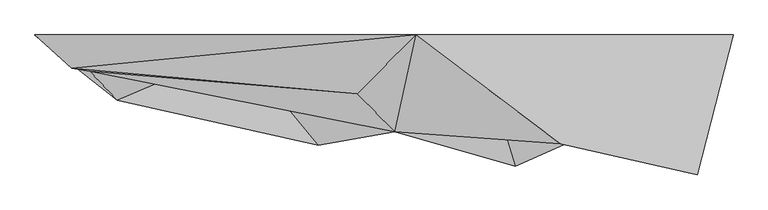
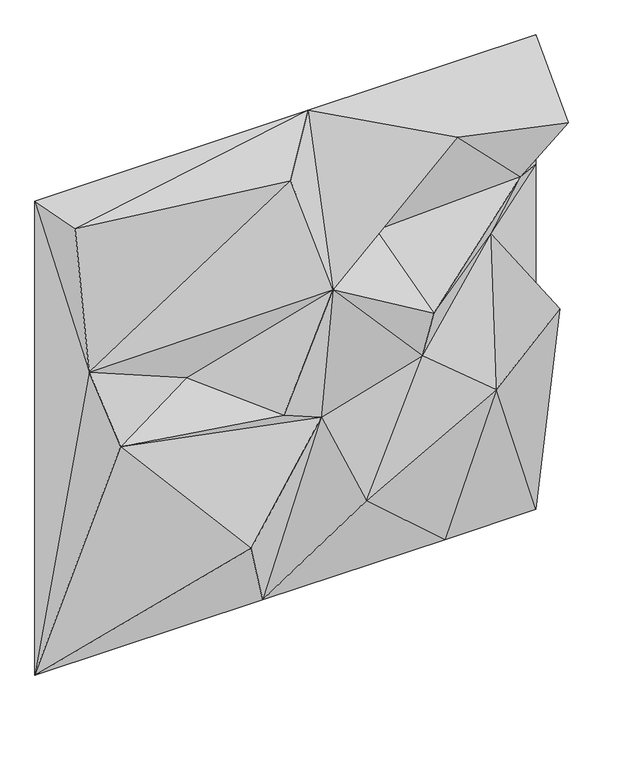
"""IFC4 building model written with IfcOpenShell, lengths in millimetres: geographic element geometry, Enscape AssetDefinition - Green Wall 001 English Laurel : Enscape AssetDefinition - Green Wall 001 English Laurel."""

from ifc_helpers import new_model, si_unit, origin, place, context, project, spatial, triangles, source, transform, mapped, element, save


def geographic_element_a9c4541f(model_context):
    return source(origin(), model_context, "Body", "Tessellation", [
        triangles([(381.8184093, 0.0, 0.0), (600.0000046, 0.0, 0.0), (600.0000046, 0.0, 872.7275436), (418.5671837, -150.2064021, 457.5395868), (-54.5460029, 0.0, 0.0), (600.0000046, 0.0, 1200.0000092), (303.3419858, -187.0055912, 1158.7379929), (538.5000157, -240.5232003, 1145.791254), (502.7051803, -103.0463991, 938.1888096), (177.5124025, -69.0372014, 895.6475836), (463.7712195, -48.9923993, 774.7716042), (18.069599, -166.7363887, 860.8391705), (238.3859942, -155.2968072, 608.8716288), (225.4451962, -225.2928072, 764.2727537), (45.3696008, -70.1100056, 469.8155817), (541.8635822, -198.2880057, 647.4504513), (96.1488005, -169.6139929, 301.3020304), (-112.8456011, -189.3864052, 602.7359931), (-174.9288029, -160.3128164, 269.5463924), (-458.6628104, -111.914408, 596.8152426), (-600.0000046, 0.0, 0.0), (-250.0919839, -23.1611998, 644.7012005), (-45.9803965, -100.7291986, 1117.9980377), (-536.2584374, -57.537599, 1142.0340706), (-600.0000046, 0.0, 1200.0000092), (-505.6248058, -62.7192004, 771.9624006), (54.5460029, 0.0, 1200.0000092)], [[24, 23, 27], [12, 27, 23], [24, 27, 25], [25, 21, 26], [24, 25, 26], [23, 26, 12], [26, 23, 24], [12, 26, 22], [18, 12, 22], [21, 20, 26], [26, 20, 22], [20, 18, 22], [21, 19, 20], [27, 5, 25], [5, 21, 25], [5, 19, 21], [19, 5, 15], [15, 18, 20], [19, 15, 20], [18, 15, 12], [5, 17, 15], [4, 16, 11], [17, 4, 13], [13, 12, 15], [17, 13, 15], [4, 11, 13], [13, 14, 12], [13, 11, 14], [14, 10, 12], [14, 11, 9], [9, 10, 14], [9, 8, 7], [12, 10, 7], [12, 7, 27], [9, 7, 10], [6, 8, 9], [6, 27, 7], [6, 7, 8], [6, 3, 27], [27, 3, 5], [6, 9, 3], [11, 3, 9], [1, 5, 3], [5, 1, 17], [1, 4, 17], [3, 2, 1], [2, 3, 11], [2, 11, 16], [4, 2, 16], [2, 4, 1]]),
    ])


if __name__ == "__main__":
    model = new_model("IFC4")
    model_context = context("Model", 3, world=origin())
    ifc_project = project(units=[si_unit("LENGTHUNIT", "METRE", prefix="MILLI")], contexts=[model_context])
    site = spatial("IfcSite", under=ifc_project)
    building = spatial("IfcBuilding", under=site)
    placement = place(None, origin())
    geographic_element_shape = geographic_element_a9c4541f(model_context)
    element("IfcGeographicElement", 1, ObjectType="Enscape AssetDefinition - Green Wall 001 English Laurel : Enscape AssetDefinition - Green Wall 001 English Laurel", at=placement, inside=building, context=model_context, shape_type="MappedRepresentation", body=[
        mapped(geographic_element_shape, transform((0.0, 0.0, 0.0), x_axis=(1.0, 0.0, 0.0), y_axis=(0.0, 1.0, 0.0), z_axis=(0.0, 0.0, 1.0))),
    ])
    save(model, "model.ifc")
